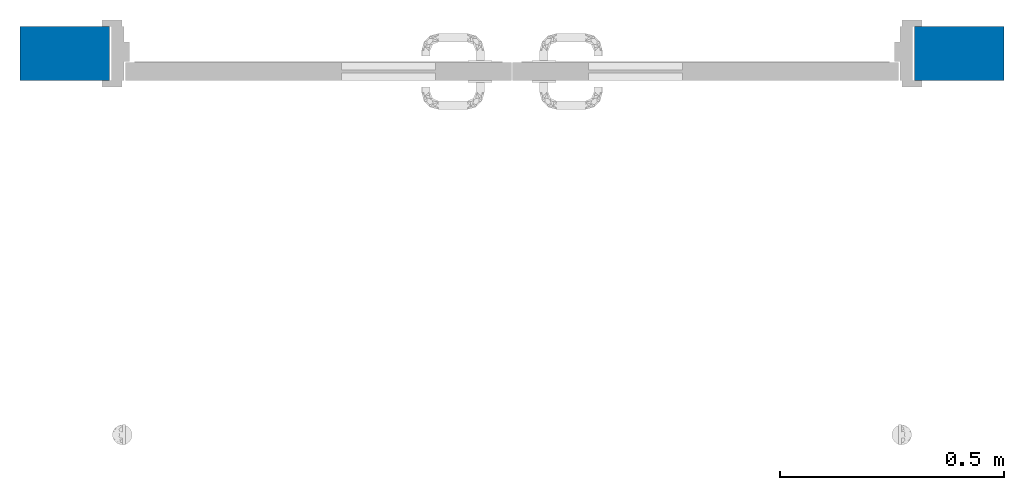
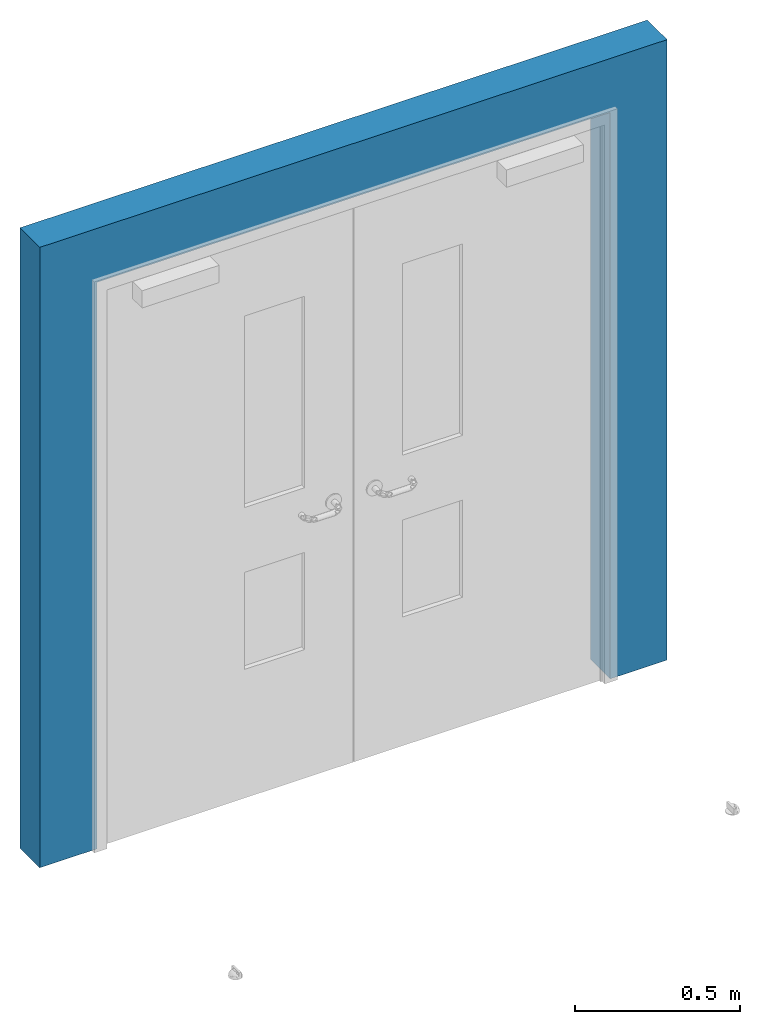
# One storey, incomplete: 1 wall, 1 opening.
"""IFC2X3 building model written with IfcOpenShell, lengths in millimetres."""

from ifc_helpers import new_model, entity, si_unit, converted_unit, derived_unit, direction, frame, frame_2d, origin, place, context, subcontext, project, spatial, rectangle, extrude, material, layer, layer_set, layer_usage, type_object, element, save


model = new_model("IFC2X3")

# Units and contexts
model_context = context("Model", 3, precision=0.01, world=origin(), true_north=direction((6.12303176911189e-17, 1.0)))
body_context = subcontext(model_context, "Body", "Model", "MODEL_VIEW")
ifc_project = project(units=[si_unit("LENGTHUNIT", "METRE", prefix="MILLI"), si_unit("AREAUNIT", "SQUARE_METRE"), si_unit("VOLUMEUNIT", "CUBIC_METRE"), converted_unit("PLANEANGLEUNIT", "DEGREE", entity("IfcRatioMeasure", 0.0174532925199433), si_unit("PLANEANGLEUNIT", "RADIAN"), dimensions=[0, 0, 0, 0, 0, 0, 0]), si_unit("MASSUNIT", "GRAM", prefix="KILO"), si_unit("TIMEUNIT", "SECOND"), si_unit("FREQUENCYUNIT", "HERTZ"), si_unit("THERMODYNAMICTEMPERATUREUNIT", "DEGREE_CELSIUS"), derived_unit("THERMALTRANSMITTANCEUNIT", [(si_unit("MASSUNIT", "GRAM", prefix="KILO"), 1), (si_unit("THERMODYNAMICTEMPERATUREUNIT", "KELVIN"), -1), (si_unit("TIMEUNIT", "SECOND"), -3)]), derived_unit("VOLUMETRICFLOWRATEUNIT", [(si_unit("LENGTHUNIT", "METRE"), 3), (si_unit("TIMEUNIT", "SECOND"), -1)]), si_unit("ELECTRICCURRENTUNIT", "AMPERE"), si_unit("ELECTRICVOLTAGEUNIT", "VOLT"), si_unit("POWERUNIT", "WATT"), si_unit("FORCEUNIT", "NEWTON", prefix="KILO"), si_unit("ILLUMINANCEUNIT", "LUX"), si_unit("LUMINOUSFLUXUNIT", "LUMEN"), si_unit("LUMINOUSINTENSITYUNIT", "CANDELA"), si_unit("PRESSUREUNIT", "PASCAL")], contexts=[model_context])

# Site, building, storey
site_placement = place(None, origin())
site = spatial("IfcSite", under=ifc_project, at=site_placement, Name="Default", CompositionType="ELEMENT")
building_placement = place(site_placement, origin())
building = spatial("IfcBuilding", under=site, at=building_placement, CompositionType="ELEMENT")
storey_placement = place(building_placement, origin())
storey = spatial("IfcBuildingStorey", under=building, at=storey_placement, Name="Level 0", CompositionType="ELEMENT", Elevation=0.0)

# Wall, opening
ifc_material = material(Name="Brick, Common")
ifc_layer = layer(ifc_material, 120.0)
ifc_layer_set = layer_set([ifc_layer], Name="Basic Wall:Int - 120 - Brick")
ifc_layer_usage = layer_usage(ifc_layer_set, "AXIS2", "NEGATIVE", 60.0)
wall_type = type_object("IfcWallType", Name="Basic Wall:Int - 120 - Brick", PredefinedType="STANDARD", material=ifc_layer_set)
wall_placement = place(storey_placement, frame((-1100.0, 0.0, 0.0)))
wall = element("IfcWallStandardCase", 1, at=wall_placement, inside=storey, type_object=wall_type, material=ifc_layer_usage, Name="Basic Wall:Int - 120 - Brick", ObjectType="Basic Wall:Int - 120 - Brick", context=body_context, shape_type="SweptSolid", body=[
    extrude(rectangle(XDim=2200.0, YDim=120.0, at=frame_2d((1100.0, 0.0), x_axis=(-1.0, 0.0))), origin(), (0.0, 0.0, 1.0), 2300.0),
])
opening_placement = place(wall_placement, frame((2000.0, 60.0, 0.0)))
element("IfcOpeningElement", 2, at=opening_placement, cuts=wall, Name="NBS_AssaAbloyLtd_DrsetSym_SelectDoorSix:1800x2100mm-NFR:1", ObjectType="Opening", context=body_context, shape_type="SweptSolid", body=[
    extrude(rectangle(XDim=2099.99999999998, YDim=1800.0, at=frame_2d((1049.99999999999, 899.999999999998), x_axis=(1.0, 0.0))), frame((0.0, 0.0, 0.0), z_axis=(0.0, -1.0, 0.0), x_axis=(0.0, 0.0, 1.0)), (0.0, 0.0, 1.0), 120.0),
])

save(model, "model.ifc")
